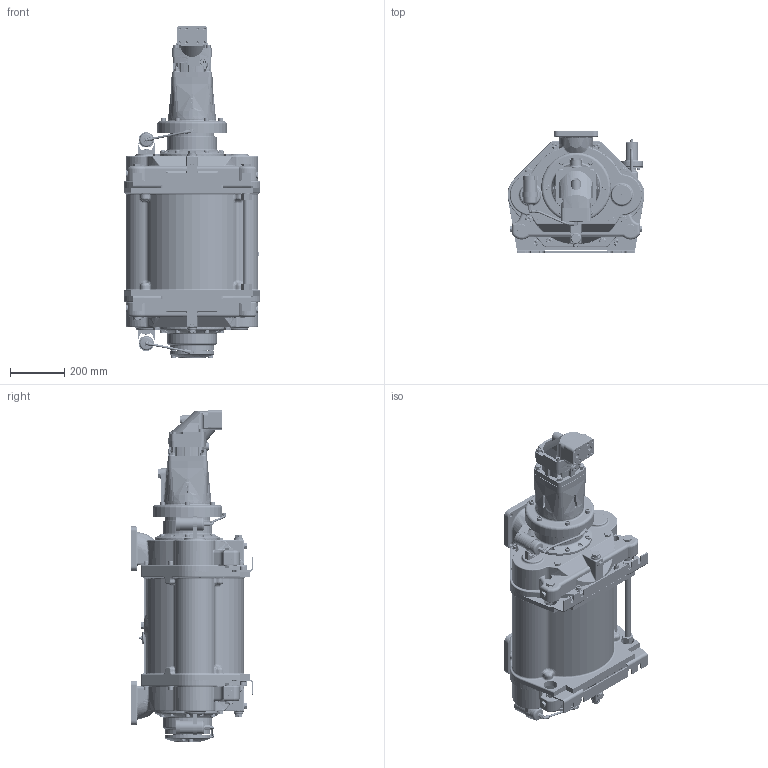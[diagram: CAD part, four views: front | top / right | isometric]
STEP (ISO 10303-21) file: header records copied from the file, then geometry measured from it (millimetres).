
FILE_DESCRIPTION(/* description */ (''),/* implementation_level */ '2;1');
FILE_NAME(/* name */ '1700037D.stp',/* time_stamp */ '2025-09-23T15:55:45+02:00',/* author */ ('JJ'),/* organization */ (''),/* preprocessor_version */ 'ST-DEVELOPER v20',/* originating_system */ 'Autodesk Inventor 2025',/* authorisation */ '');
FILE_SCHEMA (('AUTOMOTIVE_DESIGN { 1 0 10303 214 3 1 1 }'));
Length unit declared in the file: millimetre
Products named in the file (34): 1700037; 1700036 Ready for adaptor; 1700036_Part4; 915000217; 922200269; 915000021; 910300074; 932400148; 932400149; 932400150; 915000050; 910100013; 910100198; 910200013; 944000087; 944000087_part1; 944000087_part2; 944000087_part3; 1654078; 1654076; 910300509; 1634826; 1634811; 922000266; 915000232; 910300487; 915000225; 915000225-part1; 915000225-part2; 910100191; 944600240; 944600173; 944600239; Slange 3 automatsmøring TM1700
Assembly tree (60 placements, depth 3):
  1700037
    1700036 Ready for adaptor
    1700036_Part4
    915000232  x2
    910300487  x2
    915000225  x2
      915000225-part1
      915000225-part2
    915000217
    910100191  x2
    944600240  x2
    944600173  x2
    944600239  x2
    922200269
    915000050  x2
    910300074  x2
    915000021
    932400148
    932400149
    932400150
    910100013  x4
    910100198  x4
    910200013  x4
    944000087
      944000087_part1
      944000087_part2
      944000087_part3
    1654078
    1654076
    910300509  x10
    1634826
      1634811
      922000266
    Slange 3 automatsmøring TM1700
Bounding box: 502.48 x 447.1 x 1219.01 mm (x, y, z)
Volume: 92748170.4 mm3; surface area: 2840031.8 mm2
Topology: 61 solids, 62 shells, 5081 faces, 12824 edges, 8200 vertices
Faces by surface type: plane 2059, cylinder 1376, bspline 903, cone 369, torus 307, sphere 67
Full cylindrical faces by diameter (mm): 1.5 x16, 3.3 x4, 3.5 x4, 4 x4, 4.134 x4, 5 x2, 5.3 x2, 6 x5, 6.647 x1, 6.8 x2, 8 x27, 8.376 x9, 8.5 x2, 8.92 x2, 9.2 x2, 9.7 x1, 9.8 x4, 10 x10, 10.106 x21, 10.11 x1, 11.445 x2, 12 x128, 13 x22, 13.5 x4, 13.835 x8, 14 x4, 15 x4, 16 x4, 16.662 x1, 17.5 x12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
Entity records: 180586 total; most frequent: CARTESIAN_POINT 77124, ORIENTED_EDGE 21738, DIRECTION 19152, EDGE_CURVE 10869, AXIS2_PLACEMENT_3D 7190, VERTEX_POINT 6969, EDGE_LOOP 4872, LINE 4772
